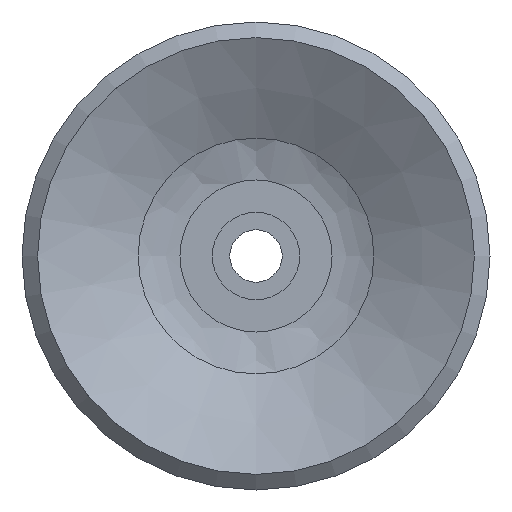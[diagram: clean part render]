
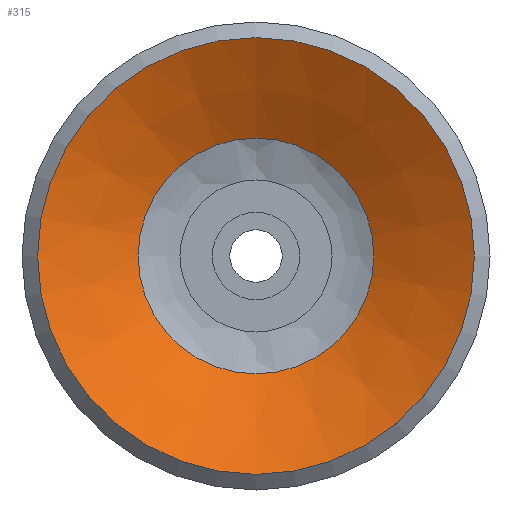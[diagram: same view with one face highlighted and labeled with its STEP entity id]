
A CAD part, front view. The second image highlights one B-rep face of the part: STEP entity #315.
In plain terms, the highlighted conical face has half-angle 61.39 degrees and reference radius 2.25 mm.
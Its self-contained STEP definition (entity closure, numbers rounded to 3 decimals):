
#315=ADVANCED_FACE('',(#452,#453),#454,.F.);
#452=FACE_BOUND('',#640,.T.);
#453=FACE_OUTER_BOUND('',#641,.T.);
#454=CONICAL_SURFACE('',#642,2.25,1.071);
#640=EDGE_LOOP('',(#928));
#641=EDGE_LOOP('',(#929));
#642=AXIS2_PLACEMENT_3D('',#930,#931,#932);
#928=ORIENTED_EDGE('',*,*,#1039,.T.);
#929=ORIENTED_EDGE('',*,*,#1040,.T.);
#930=CARTESIAN_POINT('',(0.0,1.5,0.0));
#931=DIRECTION('',(-0.0,-1.0,0.));
#932=DIRECTION('',(0.0,0.,-1.0));
#1039=EDGE_CURVE('',#1165,#1165,#1166,.T.);
#1040=EDGE_CURVE('',#1167,#1167,#1168,.T.);
#1165=VERTEX_POINT('',#1333);
#1166=CIRCLE('',#1334,2.698);
#1167=VERTEX_POINT('',#1335);
#1168=CIRCLE('',#1336,5.);
#1333=CARTESIAN_POINT('',(0.0,1.256,-2.698));
#1334=AXIS2_PLACEMENT_3D('',#1483,#1484,#1485);
#1335=CARTESIAN_POINT('',(0.0,0.,-5.));
#1336=AXIS2_PLACEMENT_3D('',#1486,#1487,#1488);
#1483=CARTESIAN_POINT('',(0.0,1.256,0.0));
#1484=DIRECTION('',(0.0,1.0,0.));
#1485=DIRECTION('',(0.0,0.,-1.0));
#1486=CARTESIAN_POINT('',(0.0,0.0,0.0));
#1487=DIRECTION('',(0.0,-1.0,0.));
#1488=DIRECTION('',(0.0,0.,-1.0));
